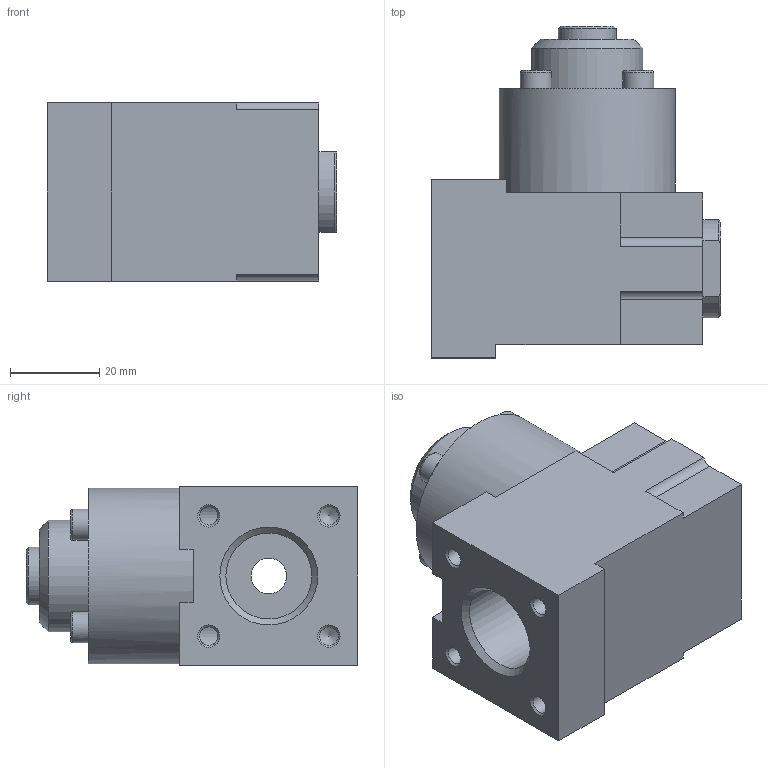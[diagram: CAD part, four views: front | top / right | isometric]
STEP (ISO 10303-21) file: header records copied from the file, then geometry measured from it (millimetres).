
FILE_DESCRIPTION( ( 'STEP AP214' ), ' ' );
FILE_NAME( 'p:/temp/worker_167/3716_4168/app_62_02016022515302259741106192d056f_000000_00_00_000000/format_1/L1-N02008.stp', '2016-02-25T14:30:23', ( '' ), ( '' ), ' ', 'PARTsolutions', ' ' );
FILE_SCHEMA( ( 'AUTOMOTIVE_DESIGN { 1 0 10303 214 1 1 1 1 }' ) );
Length unit declared in the file: millimetre
Products named in the file (1): _L1-N02008
Bounding box: 65 x 74.5 x 40 mm (x, y, z)
Volume: 110056.4 mm3; surface area: 20478.6 mm2
Topology: 1 solids, 1 shells, 122 faces, 306 edges, 196 vertices
Faces by surface type: plane 68, cylinder 27, cone 23, torus 4
Full cylindrical faces by diameter (mm): 4.134 x8, 7 x4, 8 x1, 8.566 x2, 13 x1, 19.294 x1, 25 x1, 39.5 x1
Entity records: 4376 total; most frequent: CARTESIAN_POINT 675, DIRECTION 558, ORIENTED_EDGE 488, EDGE_CURVE 244, AXIS2_PLACEMENT_3D 197, VERTEX_POINT 186, EDGE_LOOP 182, LINE 164
